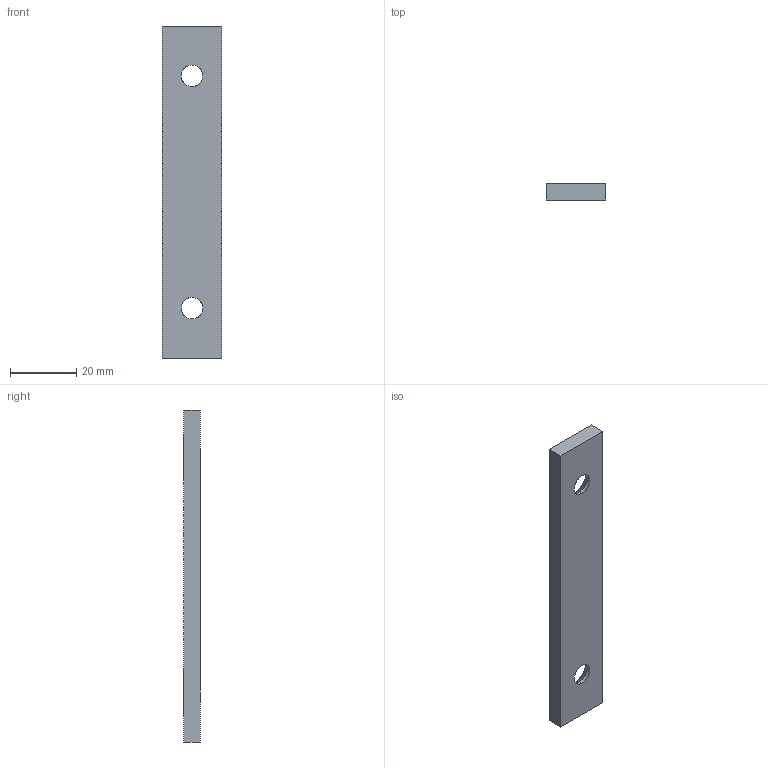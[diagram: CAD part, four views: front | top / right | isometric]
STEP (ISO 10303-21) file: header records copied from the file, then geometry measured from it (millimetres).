
FILE_DESCRIPTION(('CATIA V5 STEP Exchange'),'2;1');
FILE_NAME('C:\Users\Utente\Desktop\3D files A605\A605-018-100.stp','2020-04-13T15:45:54+00:00',('none'),('none'),'CATIA Version 5 Release 20 GA (IN-10)','CATIA V5 STEP AP203','none');
FILE_SCHEMA(('CONFIG_CONTROL_DESIGN'));
Length unit declared in the file: millimetre
Products named in the file (1): Noname
Bounding box: 18 x 5 x 100 mm (x, y, z)
Surface area: 4797.4 mm2 (no closed solid volume)
Topology: 0 solids, 10 shells, 14 faces, 56 edges, 48 vertices
Faces by surface type: extrusion 6, cylinder 4, revolution 4
Entity records: 714 total; most frequent: CARTESIAN_POINT 221, DIRECTION 66, ORIENTED_EDGE 64, EDGE_CURVE 56, VERTEX_POINT 48, VECTOR 38, LINE 32, AXIS2_PLACEMENT_3D 21
